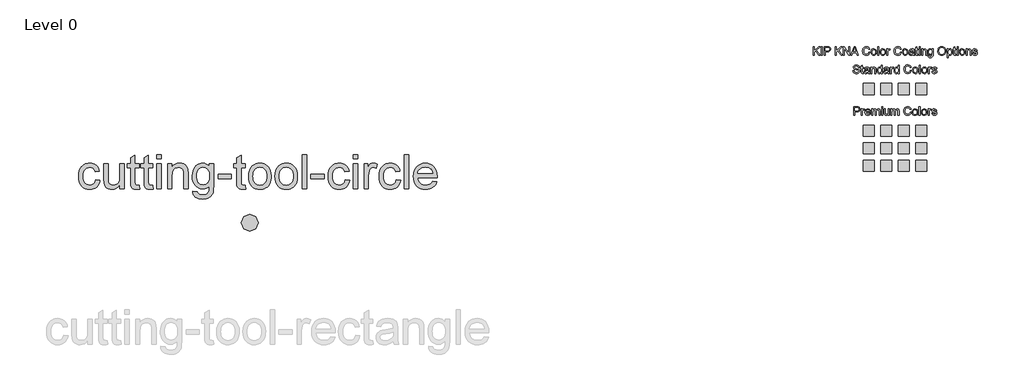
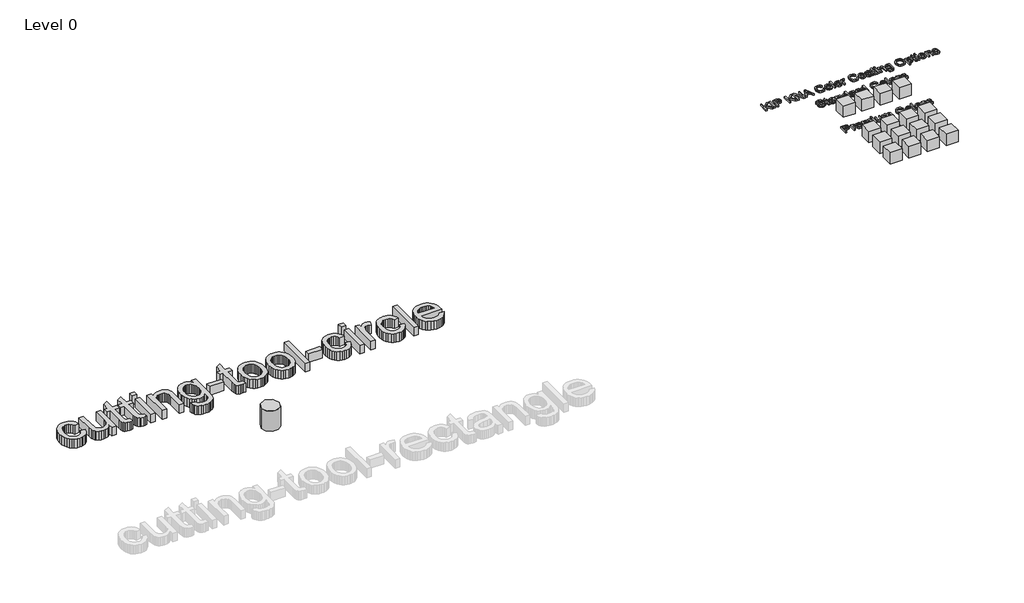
# One storey, part 2 of 2: 19 proxies.
"""IFC4 building model written with IfcOpenShell, lengths in millimetres."""

from ifc_helpers import new_model, si_unit, origin, origin_with_axes, place, context, project, spatial, polyline, outline, extrude, transform, mapped, element, save
from components import kna_colour_range_roof_only_kna_colour_range_roof_only_6b243e54, ks_colour_sample_ks_colour_sample_0243efec, kingspan_ks_cutting_tool_circle_cutting_tool_circle_f6fe257a

model = new_model("IFC4")

# Units and contexts
model_context = context("Model", 3, world=origin())
ifc_project = project(units=[si_unit("LENGTHUNIT", "METRE", prefix="MILLI")], contexts=[model_context])

# Site, building, storey
site = spatial("IfcSite", under=ifc_project)
building = spatial("IfcBuilding", under=site)
storey = spatial("IfcBuildingStorey", under=building, Name="Level 0", Elevation=0.0)

# Proxies
placement = place(None, origin())
element("IfcBuildingElementProxy", 1, Name="24\" Arial", ObjectType="24\" Arial", at=placement, inside=storey, context=model_context, shape_type="SweptSolid", body=[
    extrude(outline(polyline([(-953.9945924, 13908.1283284), (-877.8528189, 13898.6106067), (-886.1343521, 13862.6821368), (-899.0817997, 13830.8897861), (-916.6951616, 13803.2335548), (-938.9744378, 13779.7134428), (-964.9808688, 13760.9428969), (-993.7756948, 13747.5353642), (-1025.3589158, 13739.4908445), (-1059.7305318, 13736.809338), (-1102.4348016, 13740.5504346), (-1140.7241126, 13751.7737246), (-1174.5984649, 13770.4792079), (-1204.0578583, 13796.6668845), (-1227.9032831, 13829.844138), (-1244.9357294, 13869.5183519), (-1255.1551972, 13915.6895262), (-1258.5616864, 13968.3576609), (-1252.7432355, 14036.1156601), (-1245.4701718, 14066.6067597), (-1235.2878826, 14094.8392593), (-1222.1266581, 14120.2461853), (-1205.9167884, 14142.2605641), (-1186.6582734, 14160.8823955), (-1164.3511132, 14176.1116797), (-1140.0037773, 14187.9530639), (-1114.6247352, 14196.4111955), (-1088.213987, 14201.4860744), (-1060.7715326, 14203.1777008), (-1026.9901268, 14200.8540382), (-996.4339647, 14193.8830507), (-969.1030461, 14182.2647381), (-944.9973711, 14165.9991004), (-924.5259043, 14145.4579237), (-908.0976102, 14121.012994), (-895.712489, 14092.6643112), (-887.3705406, 14060.4118754), (-963.5123141, 14050.8941537), (-977.3241641, 14084.1132331), (-998.8319844, 14107.9261267), (-1026.8460598, 14122.2584771), (-1060.176675, 14127.0359272), (-1086.0483335, 14124.6843808), (-1109.3825525, 14117.6297413), (-1130.1793321, 14105.872009), (-1148.4386722, 14089.4111837), (-1163.305465, 14067.8661848), (-1173.9246028, 14040.8559316), (-1180.2960854, 14008.3804242), (-1182.4199129, 13970.4396626), (-1180.3425586, 13931.9272799), (-1174.1104958, 13899.0753392), (-1163.7237243, 13871.8838404), (-1149.1822442, 13850.3527834), (-1131.2853955, 13833.9895519), (-1110.832518, 13822.3015295), (-1087.8236117, 13815.288716), (-1062.2586766, 13812.9511115), (-1022.8307709, 13818.7881517), (-1005.7797353, 13826.0844521), (-990.5039779, 13836.2992725), (-977.4310526, 13849.5441489), (-966.9885132, 13865.930617), (-959.1763598, 13885.4586768), (-953.9945924, 13908.1283284)])), origin_with_axes(), (0.0, 0.0, 1.0), 152.4),
    extrude(outline(polyline([(-525.6971163, 13746.3270596), (-525.6971163, 13823.2124052), (-553.2464592, 13785.4110633), (-585.3315913, 13758.4101048), (-621.9525127, 13742.2095297), (-663.1092232, 13736.809338), (-700.1948771, 13740.6015552), (-734.7152075, 13751.9782069), (-763.6773372, 13769.0803631), (-784.0883888, 13790.0490937), (-797.8258816, 13815.5164349), (-806.767335, 13846.114423), (-811.228767, 13916.9024781), (-811.228767, 14193.6599791), (-735.0869935, 14193.6599791), (-735.0869935, 13952.7426488), (-733.9344569, 13904.5591827), (-730.4768471, 13875.1137313), (-719.3790349, 13849.2188361), (-700.3621808, 13829.5327672), (-674.6903573, 13817.0965254), (-643.6276367, 13812.9511115), (-610.7803432, 13817.1894719), (-580.0522301, 13829.9045532), (-554.7150139, 13849.9252295), (-538.0404117, 13876.0803749), (-528.7829402, 13911.9019563), (-525.6971163, 13960.9219409), (-525.6971163, 14193.6599791), (-449.5553428, 14193.6599791), (-449.5553428, 13746.3270596), (-525.6971163, 13746.3270596)])), origin_with_axes(), (0.0, 0.0, 1.0), 152.4),
    extrude(outline(polyline([(-183.0591355, 13809.828109), (-173.5414138, 13744.0963436), (-203.6932587, 13738.6310894), (-230.4990296, 13736.809338), (-267.0455937, 13739.969519), (-294.2975078, 13749.4500621), (-313.5560227, 13764.061252), (-326.1223897, 13782.6133736), (-333.0376093, 13814.4754341), (-335.3426826, 13869.0164408), (-335.3426826, 14117.5182055), (-392.4490127, 14117.5182055), (-392.4490127, 14193.6599791), (-335.3426826, 14193.6599791), (-335.3426826, 14302.3702065), (-259.200909, 14347.1332413), (-259.200909, 14193.6599791), (-183.0591355, 14193.6599791), (-183.0591355, 14117.5182055), (-259.200909, 14117.5182055), (-259.200909, 13871.2471568), (-255.1856202, 13831.9865549), (-242.1731101, 13818.0817583), (-231.1868337, 13814.2337732), (-216.222447, 13812.9511115), (-183.0591355, 13809.828109)])), origin_with_axes(), (0.0, 0.0, 1.0), 152.4),
    extrude(outline(polyline([(54.8839067, 13809.828109), (64.4016284, 13744.0963436), (34.2497835, 13738.6310894), (7.4440127, 13736.809338), (-29.1025515, 13739.969519), (-56.3544655, 13749.4500621), (-75.6129805, 13764.061252), (-88.1793474, 13782.6133736), (-95.0945671, 13814.4754341), (-97.3996403, 13869.0164408), (-97.3996403, 14117.5182055), (-154.5059705, 14117.5182055), (-154.5059705, 14193.6599791), (-97.3996403, 14193.6599791), (-97.3996403, 14302.3702065), (-21.2578668, 14347.1332413), (-21.2578668, 14193.6599791), (54.8839067, 14193.6599791), (54.8839067, 14117.5182055), (-21.2578668, 14117.5182055), (-21.2578668, 13871.2471568), (-17.242578, 13831.9865549), (-4.2300678, 13818.0817583), (6.7562086, 13814.2337732), (21.7205952, 13812.9511115), (54.8839067, 13809.828109)])), origin_with_axes(), (0.0, 0.0, 1.0), 152.4),
    extrude(outline(polyline([(131.0256802, 14279.3194743), (131.0256802, 14355.4612478), (207.1674538, 14355.4612478), (207.1674538, 14279.3194743), (131.0256802, 14279.3194743)])), origin_with_axes(), (0.0, 0.0, 1.0), 152.4),
    extrude(outline(polyline([(131.0256802, 13746.3270596), (131.0256802, 14193.6599791), (207.1674538, 14193.6599791), (207.1674538, 13746.3270596), (131.0256802, 13746.3270596)])), origin_with_axes(), (0.0, 0.0, 1.0), 152.4),
    extrude(outline(polyline([(321.380114, 13746.3270596), (321.380114, 14193.6599791), (397.5218875, 14193.6599791), (397.5218875, 14131.1999305), (423.9744617, 14162.690205), (455.7435757, 14185.1832582), (492.8292295, 14198.6790901), (535.2314232, 14203.1777008), (572.7632203, 14199.5527872), (607.1348363, 14188.6780466), (635.7995372, 14171.9104979), (656.2105888, 14150.6071599), (670.0596174, 14124.8238005), (679.0382494, 14094.6161877), (683.0535382, 14021.002559), (683.0535382, 13746.3270596), (606.9117647, 13746.3270596), (606.9117647, 14010.7412653), (604.7182273, 14050.1134031), (598.137615, 14078.1088892), (585.998802, 14098.1667441), (567.1306623, 14113.7259883), (542.9459828, 14123.7084425), (514.8575503, 14127.0359272), (491.7371082, 14125.1677026), (470.2618191, 14119.5630286), (450.4316832, 14110.2219052), (432.2467003, 14097.1443326), (417.0545947, 14078.8431665), (406.2030907, 14053.8312631), (399.6921883, 14022.1086224), (397.5218875, 13983.6752443), (397.5218875, 13746.3270596), (321.380114, 13746.3270596)])), origin_with_axes(), (0.0, 0.0, 1.0), 152.4),
    extrude(outline(polyline([(768.7130334, 13708.2561729), (844.854807, 13698.7384512), (853.2571706, 13674.944147), (869.5413976, 13658.5855628), (901.5521725, 13645.8704815), (943.4524551, 13641.6321211), (988.1411327, 13646.4281605), (1006.1913432, 13652.4232098), (1021.3788014, 13660.8162788), (1044.4295336, 13683.8670111), (1058.5574018, 13714.6508922), (1062.6842264, 13747.4052391), (1063.7624058, 13803.4333898), (1038.4251897, 13778.4493704), (1010.1508641, 13760.6036422), (978.9394291, 13749.8962053), (944.7908847, 13746.3270596), (903.0439638, 13750.4817682), (866.2882701, 13762.945894), (834.5238034, 13783.719437), (807.7505638, 13812.8023971), (786.507641, 13847.6945135), (771.3341248, 13885.8955254), (762.230015, 13927.4054327), (759.1953118, 13972.2242354), (764.6419767, 14033.6990511), (780.9819716, 14090.2291129), (793.0929006, 14115.7196908), (807.639028, 14138.1337394), (824.6203537, 14157.4712589), (844.0368778, 14173.7322493), (865.5772293, 14186.6146343), (888.9300377, 14195.8163379), (914.0953028, 14201.33736), (941.0730247, 14203.1777008), (976.6808292, 14199.0136975), (1008.9983275, 14186.5216878), (1038.0255197, 14165.7016716), (1063.7624058, 14136.5536489), (1063.7624058, 14193.6599791), (1139.9041793, 14193.6599791), (1139.9041793, 13807.4486786), (1134.6991753, 13718.2758057), (1128.1929202, 13685.1078468), (1119.0841631, 13659.5522064), (1107.1544798, 13638.9413199), (1092.1854458, 13620.6076226), (1074.1770612, 13604.5511145), (1053.1293261, 13590.7717958), (1029.2560174, 13579.7111622), (1002.7709119, 13571.8107096), (973.6740098, 13567.0704381), (941.9653111, 13565.4903475), (904.6612329, 13567.7164162), (871.1214881, 13574.3946223), (841.3460766, 13585.5249658), (815.3349983, 13601.1074467), (794.3244418, 13621.1606542), (779.5505954, 13645.7031778), (771.0134593, 13674.7350173), (768.7130334, 13708.2561729)]), holes=[polyline([(835.3370853, 13977.4292394), (837.3679663, 13939.7812592), (843.4606094, 13907.5892387), (853.6150147, 13880.8531777), (867.831182, 13859.5730763), (885.1145838, 13843.3399699), (904.4706926, 13831.744894), (925.8995084, 13824.7878484), (949.4010311, 13822.4688332), (972.6701876, 13824.7739064), (993.9967623, 13831.6891261), (1013.380755, 13843.2144922), (1030.8221659, 13859.3500047), (1045.2335209, 13880.4209765), (1055.5273458, 13906.7527202), (1061.7036408, 13938.3452358), (1063.7624058, 13975.1985234), (1061.6432256, 14010.5135464), (1055.2856849, 14041.2091283), (1044.6897838, 14067.2852691), (1029.8555223, 14088.7419689), (1012.0376781, 14105.4955757), (992.491029, 14117.4624376), (971.2155749, 14124.6425548), (948.2113159, 14127.0359272), (925.5927849, 14124.6797334), (904.7309428, 14117.611152), (885.6257896, 14105.8301831), (868.2773252, 14089.3368265), (853.8659702, 14068.2054395), (843.5721452, 14042.5103793), (837.3958503, 14012.251646), (835.3370853, 13977.4292394)])]), origin_with_axes(), (0.0, 0.0, 1.0), 152.4),
    extrude(outline(polyline([(1216.0459529, 13927.1637718), (1216.0459529, 14003.3055453), (1453.9889951, 14003.3055453), (1453.9889951, 13927.1637718), (1216.0459529, 13927.1637718)])), origin_with_axes(), (0.0, 0.0, 1.0), 152.4),
    extrude(outline(polyline([(1701.449759, 13809.828109), (1710.9674807, 13744.0963436), (1680.8156358, 13738.6310894), (1654.009865, 13736.809338), (1617.4633008, 13739.969519), (1590.2113868, 13749.4500621), (1570.9528718, 13764.061252), (1558.3865049, 13782.6133736), (1551.4712852, 13814.4754341), (1549.166212, 13869.0164408), (1549.166212, 14117.5182055), (1492.0598819, 14117.5182055), (1492.0598819, 14193.6599791), (1549.166212, 14193.6599791), (1549.166212, 14302.3702065), (1625.3079855, 14347.1332413), (1625.3079855, 14193.6599791), (1701.449759, 14193.6599791), (1701.449759, 14117.5182055), (1625.3079855, 14117.5182055), (1625.3079855, 13871.2471568), (1629.3232743, 13831.9865549), (1642.3357845, 13818.0817583), (1653.3220609, 13814.2337732), (1668.2864475, 13812.9511115), (1701.449759, 13809.828109)])), origin_with_axes(), (0.0, 0.0, 1.0), 152.4),
    extrude(outline(polyline([(1758.5560892, 13969.9935194), (1762.6736192, 14027.9270734), (1775.0262091, 14077.848639), (1795.6138591, 14119.7582162), (1824.436569, 14153.6558051), (1853.4544666, 14175.3216344), (1885.4838308, 14190.7972268), (1920.5246616, 14200.0825823), (1958.576959, 14203.1777008), (2000.5841301, 14199.4087201), (2038.5667177, 14188.1017783), (2072.5247218, 14169.2568753), (2102.4581424, 14142.874011), (2126.8891302, 14109.8454719), (2144.3398357, 14071.0635444), (2154.810259, 14026.5282285), (2158.3004001, 13976.2395242), (2156.7574882, 13935.4824836), (2152.1287525, 13899.3170001), (2144.4141929, 13867.7430737), (2133.6138095, 13840.7607045), (2119.8623747, 13817.4543694), (2103.2946609, 13796.9085454), (2083.9106682, 13779.1232325), (2061.7103964, 13764.0984306), (2037.5582482, 13752.1594526), (2012.3186259, 13743.6316111), (1985.9915295, 13738.5149063), (1958.576959, 13736.809338), (1915.9563411, 13740.5643766), (1877.6205568, 13751.8294925), (1843.5696062, 13770.6046857), (1813.8034893, 13796.8899561), (1789.6327517, 13830.2391606), (1772.3679392, 13870.206156), (1762.0090517, 13916.7909423), (1758.5560892, 13969.9935194)]), holes=[polyline([(1834.6978627, 13970.1422338), (1836.9006948, 13933.2099416), (1843.509191, 13901.231698), (1854.5233513, 13874.2075029), (1869.9431758, 13852.1373562), (1888.6997797, 13834.9933742), (1909.7242782, 13822.7476727), (1933.0166713, 13815.4002518), (1958.576959, 13812.9511115), (1984.0071217, 13815.4141937), (2007.2065683, 13822.8034406), (2028.1752989, 13835.1188519), (2046.9133135, 13852.3604278), (2062.333138, 13874.6489988), (2073.3472983, 13902.1053951), (2079.9557945, 13934.7296169), (2082.1586266, 13972.5216642), (2079.9418526, 14008.2828304), (2073.2915304, 14039.4245555), (2062.2076602, 14065.9468395), (2046.6902419, 14087.8496825), (2027.8825174, 14104.9936646), (2006.9277288, 14117.239366), (1983.825876, 14124.5867869), (1958.576959, 14127.0359272), (1933.0166713, 14124.5960816), (1909.7242782, 14117.2765446), (1888.6997797, 14105.0773164), (1869.9431758, 14087.9983969), (1854.5233513, 14065.9933128), (1843.509191, 14039.0155909), (1836.9006948, 14007.0652312), (1834.6978627, 13970.1422338)])]), origin_with_axes(), (0.0, 0.0, 1.0), 152.4),
    extrude(outline(polyline([(2224.924452, 13969.9935194), (2229.0419819, 14027.9270734), (2241.3945719, 14077.848639), (2261.9822219, 14119.7582162), (2290.8049318, 14153.6558051), (2319.8228294, 14175.3216344), (2351.8521936, 14190.7972268), (2386.8930244, 14200.0825823), (2424.9453218, 14203.1777008), (2466.9524929, 14199.4087201), (2504.9350805, 14188.1017783), (2538.8930846, 14169.2568753), (2568.8265052, 14142.874011), (2593.257493, 14109.8454719), (2610.7081985, 14071.0635444), (2621.1786218, 14026.5282285), (2624.6687629, 13976.2395242), (2623.125851, 13935.4824836), (2618.4971153, 13899.3170001), (2610.7825557, 13867.7430737), (2599.9821723, 13840.7607045), (2586.2307375, 13817.4543694), (2569.6630237, 13796.9085454), (2550.2790309, 13779.1232325), (2528.0787592, 13764.0984306), (2503.926611, 13752.1594526), (2478.6869886, 13743.6316111), (2452.3598923, 13738.5149063), (2424.9453218, 13736.809338), (2382.3247039, 13740.5643766), (2343.9889196, 13751.8294925), (2309.937969, 13770.6046857), (2280.1718521, 13796.8899561), (2256.0011145, 13830.2391606), (2238.736302, 13870.206156), (2228.3774145, 13916.7909423), (2224.924452, 13969.9935194)]), holes=[polyline([(2301.0662255, 13970.1422338), (2303.2690575, 13933.2099416), (2309.8775538, 13901.231698), (2320.8917141, 13874.2075029), (2336.3115386, 13852.1373562), (2355.0681425, 13834.9933742), (2376.092641, 13822.7476727), (2399.3850341, 13815.4002518), (2424.9453218, 13812.9511115), (2450.3754845, 13815.4141937), (2473.5749311, 13822.8034406), (2494.5436617, 13835.1188519), (2513.2816763, 13852.3604278), (2528.7015008, 13874.6489988), (2539.7156611, 13902.1053951), (2546.3241573, 13934.7296169), (2548.5269894, 13972.5216642), (2546.3102154, 14008.2828304), (2539.6598932, 14039.4245555), (2528.576023, 14065.9468395), (2513.0586047, 14087.8496825), (2494.2508802, 14104.9936646), (2473.2960916, 14117.239366), (2450.1942388, 14124.5867869), (2424.9453218, 14127.0359272), (2399.3850341, 14124.5960816), (2376.092641, 14117.2765446), (2355.0681425, 14105.0773164), (2336.3115386, 14087.9983969), (2320.8917141, 14065.9933128), (2309.8775538, 14039.0155909), (2303.2690575, 14007.0652312), (2301.0662255, 13970.1422338)])]), origin_with_axes(), (0.0, 0.0, 1.0), 152.4),
    extrude(outline(polyline([(2710.3282581, 13746.3270596), (2710.3282581, 14355.4612478), (2786.4700316, 14355.4612478), (2786.4700316, 13746.3270596), (2710.3282581, 13746.3270596)])), origin_with_axes(), (0.0, 0.0, 1.0), 152.4),
    extrude(outline(polyline([(2862.6118052, 13927.1637718), (2862.6118052, 14003.3055453), (3100.5548474, 14003.3055453), (3100.5548474, 13927.1637718), (2862.6118052, 13927.1637718)])), origin_with_axes(), (0.0, 0.0, 1.0), 152.4),
    extrude(outline(polyline([(3471.7459933, 13908.1283284), (3547.8877668, 13898.6106067), (3539.6062336, 13862.6821368), (3526.658786, 13830.8897861), (3509.0454241, 13803.2335548), (3486.7661478, 13779.7134428), (3460.7597169, 13760.9428969), (3431.9648909, 13747.5353642), (3400.3816699, 13739.4908445), (3366.0100539, 13736.809338), (3323.3057841, 13740.5504346), (3285.016473, 13751.7737246), (3251.1421208, 13770.4792079), (3221.6827273, 13796.6668845), (3197.8373025, 13829.844138), (3180.8048563, 13869.5183519), (3170.5853885, 13915.6895262), (3167.1788992, 13968.3576609), (3172.9973502, 14036.1156601), (3180.2704139, 14066.6067597), (3190.452703, 14094.8392593), (3203.6139276, 14120.2461853), (3219.8237973, 14142.2605641), (3239.0823123, 14160.8823955), (3261.3894725, 14176.1116797), (3285.7368084, 14187.9530639), (3311.1158505, 14196.4111955), (3337.5265987, 14201.4860744), (3364.9690531, 14203.1777008), (3398.7504588, 14200.8540382), (3429.306621, 14193.8830507), (3456.6375396, 14182.2647381), (3480.7432146, 14165.9991004), (3501.2146814, 14145.4579237), (3517.6429754, 14121.012994), (3530.0280967, 14092.6643112), (3538.3700451, 14060.4118754), (3462.2282716, 14050.8941537), (3448.4164216, 14084.1132331), (3426.9086013, 14107.9261267), (3398.8945259, 14122.2584771), (3365.5639107, 14127.0359272), (3339.6922522, 14124.6843808), (3316.3580331, 14117.6297413), (3295.5612536, 14105.872009), (3277.3019135, 14089.4111837), (3262.4351207, 14067.8661848), (3251.8159829, 14040.8559316), (3245.4445003, 14008.3804242), (3243.3206727, 13970.4396626), (3245.398027, 13931.9272799), (3251.6300899, 13899.0753392), (3262.0168614, 13871.8838404), (3276.5583415, 13850.3527834), (3294.4551902, 13833.9895519), (3314.9080677, 13822.3015295), (3337.916974, 13815.288716), (3363.4819091, 13812.9511115), (3402.9098148, 13818.7881517), (3419.9608503, 13826.0844521), (3435.2366078, 13836.2992725), (3448.3095331, 13849.5441489), (3458.7520725, 13865.930617), (3466.5642259, 13885.4586768), (3471.7459933, 13908.1283284)])), origin_with_axes(), (0.0, 0.0, 1.0), 152.4),
    extrude(outline(polyline([(3614.5118186, 14279.3194743), (3614.5118186, 14355.4612478), (3690.6535922, 14355.4612478), (3690.6535922, 14279.3194743), (3614.5118186, 14279.3194743)])), origin_with_axes(), (0.0, 0.0, 1.0), 152.4),
    extrude(outline(polyline([(3614.5118186, 13746.3270596), (3614.5118186, 14193.6599791), (3690.6535922, 14193.6599791), (3690.6535922, 13746.3270596), (3614.5118186, 13746.3270596)])), origin_with_axes(), (0.0, 0.0, 1.0), 152.4),
    extrude(outline(polyline([(3804.8662524, 13746.3270596), (3804.8662524, 14193.6599791), (3871.4903043, 14193.6599791), (3871.4903043, 14127.4820704), (3896.1025377, 14165.850386), (3918.7814839, 14188.454975), (3941.5347873, 14199.4970193), (3966.3700924, 14203.1777008), (4004.2922647, 14197.3034819), (4042.8092947, 14179.6808253), (4017.379132, 14111.4209151), (3990.6105398, 14123.1321742), (3963.8419475, 14127.0359272), (3941.1072334, 14123.2808886), (3920.7891283, 14112.0157727), (3904.3747763, 14094.0956873), (3893.3513213, 14070.3757403), (3884.0938498, 14027.8434215), (3881.008026, 13981.4445283), (3881.008026, 13746.3270596), (3804.8662524, 13746.3270596)])), origin_with_axes(), (0.0, 0.0, 1.0), 152.4),
    extrude(outline(polyline([(4375.9295538, 13908.1283284), (4452.0713273, 13898.6106067), (4443.7897941, 13862.6821368), (4430.8423465, 13830.8897861), (4413.2289846, 13803.2335548), (4390.9497084, 13779.7134428), (4364.9432774, 13760.9428969), (4336.1484514, 13747.5353642), (4304.5652304, 13739.4908445), (4270.1936144, 13736.809338), (4227.4893446, 13740.5504346), (4189.2000336, 13751.7737246), (4155.3256813, 13770.4792079), (4125.8662879, 13796.6668845), (4102.0208631, 13829.844138), (4084.9884168, 13869.5183519), (4074.768949, 13915.6895262), (4071.3624597, 13968.3576609), (4077.1809107, 14036.1156601), (4084.4539744, 14066.6067597), (4094.6362636, 14094.8392593), (4107.7974881, 14120.2461853), (4124.0073578, 14142.2605641), (4143.2658728, 14160.8823955), (4165.573033, 14176.1116797), (4189.9203689, 14187.9530639), (4215.299411, 14196.4111955), (4241.7101592, 14201.4860744), (4269.1526136, 14203.1777008), (4302.9340194, 14200.8540382), (4333.4901815, 14193.8830507), (4360.8211001, 14182.2647381), (4384.9267751, 14165.9991004), (4405.3982419, 14145.4579237), (4421.8265359, 14121.012994), (4434.2116572, 14092.6643112), (4442.5536056, 14060.4118754), (4366.4118321, 14050.8941537), (4352.5999821, 14084.1132331), (4331.0921618, 14107.9261267), (4303.0780864, 14122.2584771), (4269.7474712, 14127.0359272), (4243.8758127, 14124.6843808), (4220.5415937, 14117.6297413), (4199.7448141, 14105.872009), (4181.485474, 14089.4111837), (4166.6186812, 14067.8661848), (4155.9995434, 14040.8559316), (4149.6280608, 14008.3804242), (4147.5042333, 13970.4396626), (4149.5815876, 13931.9272799), (4155.8136504, 13899.0753392), (4166.2004219, 13871.8838404), (4180.741902, 13850.3527834), (4198.6387507, 13833.9895519), (4219.0916282, 13822.3015295), (4242.1005345, 13815.288716), (4267.6654696, 13812.9511115), (4307.0933753, 13818.7881517), (4324.1444109, 13826.0844521), (4339.4201683, 13836.2992725), (4352.4930936, 13849.5441489), (4362.935633, 13865.930617), (4370.7477864, 13885.4586768), (4375.9295538, 13908.1283284)])), origin_with_axes(), (0.0, 0.0, 1.0), 152.4),
    extrude(outline(polyline([(4518.6953792, 13746.3270596), (4518.6953792, 14355.4612478), (4594.8371527, 14355.4612478), (4594.8371527, 13746.3270596), (4518.6953792, 13746.3270596)])), origin_with_axes(), (0.0, 0.0, 1.0), 152.4),
    extrude(outline(polyline([(5022.2423423, 13879.5751633), (5096.8969718, 13870.0574416), (5085.4506102, 13840.1565523), (5069.9982545, 13813.8062193), (5050.5399045, 13791.0064426), (5027.0755603, 13771.7572223), (4999.8468829, 13756.4675229), (4969.0955331, 13745.546309), (4934.8215109, 13738.9935807), (4897.0248163, 13736.809338), (4849.7801099, 13740.5783186), (4807.6846397, 13751.8852604), (4770.7384056, 13770.7301635), (4738.9414076, 13797.1130277), (4713.3718252, 13830.2995759), (4695.1078378, 13869.5555305), (4684.1494454, 13914.8808917), (4680.4966479, 13966.2756593), (4684.186624, 14019.4131739), (4695.2565522, 14066.2489157), (4713.7064326, 14106.7828847), (4739.5362652, 14141.015081), (4771.2496113, 14168.2112271), (4807.3500323, 14187.6370458), (4847.8375281, 14199.292537), (4892.7120987, 14203.1777008), (4936.1413512, 14199.3018317), (4975.4158952, 14187.6742244), (5010.5357305, 14168.294879), (5041.5008573, 14141.1637954), (5066.7776582, 14107.0059563), (5084.832516, 14066.5463445), (5095.6654307, 14019.7849599), (5099.2764022, 13966.7218025), (5098.830259, 13946.1992151), (4756.6384214, 13946.1992151), (4761.0487329, 13915.815004), (4769.8182352, 13889.2044208), (4782.9469285, 13866.3674655), (4800.4348126, 13847.3041382), (4821.315244, 13832.274689), (4844.6215791, 13821.5393682), (4870.3538179, 13815.0981756), (4898.5119603, 13812.9511115), (4939.0366347, 13816.9292217), (4973.1665898, 13828.8635524), (5000.9018257, 13849.4976756), (5022.2423423, 13879.5751633)]), holes=[polyline([(4756.6384214, 14022.3409886), (5023.1346287, 14022.3409886), (5012.8361564, 14062.5682342), (5003.9783549, 14078.3877287), (4992.6481764, 14091.3444709), (4971.8839281, 14106.959483), (4948.2569276, 14118.1130632), (4921.7671749, 14124.8052112), (4892.4146699, 14127.0359272), (4865.6414303, 14125.2560017), (4841.0896121, 14119.9162253), (4818.7592153, 14111.0165978), (4798.6502398, 14098.5571194), (4781.7758026, 14083.1140582), (4769.1490204, 14065.2636828), (4760.7698934, 14045.0059929), (4756.6384214, 14022.3409886)])]), origin_with_axes(), (0.0, 0.0, 1.0), 152.4),
])
kna_colour_range_roof_only_kna_colour_range_roof_only_shape = kna_colour_range_roof_only_kna_colour_range_roof_only_6b243e54(model_context)
element("IfcBuildingElementProxy", 2, Name="KNA_Colour Range - Roof Only : KNA_Colour Range - Roof Only", ObjectType="KNA_Colour Range - Roof Only : KNA_Colour Range - Roof Only", at=placement, inside=storey, context=model_context, shape_type="MappedRepresentation", body=[
    mapped(kna_colour_range_roof_only_kna_colour_range_roof_only_shape, transform((13221.5853815, 13539.2290821, 0.0), x_axis=(1.0, 0.0, 0.0), y_axis=(0.0, 1.0, 0.0), z_axis=(0.0, 0.0, 1.0))),
])
ks_colour_sample_ks_colour_sample_shape = ks_colour_sample_ks_colour_sample_0243efec(model_context)
element("IfcBuildingElementProxy", 3, Name="KS_Colour Sample : KS_Colour Sample", ObjectType="KS_Colour Sample : KS_Colour Sample", at=placement, inside=storey, context=model_context, shape_type="MappedRepresentation", body=[
    mapped(ks_colour_sample_ks_colour_sample_shape, transform((12756.5853815, 15517.7096271, 0.0), x_axis=(1.0, 0.0, 0.0), y_axis=(0.0, 1.0, 0.0), z_axis=(0.0, 0.0, 1.0))),
])
element("IfcBuildingElementProxy", 4, Name="KS_Colour Sample : KS_Colour Sample", ObjectType="KS_Colour Sample : KS_Colour Sample", at=placement, inside=storey, context=model_context, shape_type="MappedRepresentation", body=[
    mapped(ks_colour_sample_ks_colour_sample_shape, transform((13066.5853815, 15517.7096271, 0.0), x_axis=(1.0, 0.0, 0.0), y_axis=(0.0, 1.0, 0.0), z_axis=(0.0, 0.0, 1.0))),
])
element("IfcBuildingElementProxy", 5, Name="KS_Colour Sample : KS_Colour Sample", ObjectType="KS_Colour Sample : KS_Colour Sample", at=placement, inside=storey, context=model_context, shape_type="MappedRepresentation", body=[
    mapped(ks_colour_sample_ks_colour_sample_shape, transform((13376.5853815, 15517.7096271, 0.0), x_axis=(1.0, 0.0, 0.0), y_axis=(0.0, 1.0, 0.0), z_axis=(0.0, 0.0, 1.0))),
])
element("IfcBuildingElementProxy", 6, Name="KS_Colour Sample : KS_Colour Sample", ObjectType="KS_Colour Sample : KS_Colour Sample", at=placement, inside=storey, context=model_context, shape_type="MappedRepresentation", body=[
    mapped(ks_colour_sample_ks_colour_sample_shape, transform((13686.5853815, 15517.7096271, 0.0), x_axis=(1.0, 0.0, 0.0), y_axis=(0.0, 1.0, 0.0), z_axis=(0.0, 0.0, 1.0))),
])
element("IfcBuildingElementProxy", 7, Name="KS_Colour Sample : KS_Colour Sample", ObjectType="KS_Colour Sample : KS_Colour Sample", at=placement, inside=storey, context=model_context, shape_type="MappedRepresentation", body=[
    mapped(ks_colour_sample_ks_colour_sample_shape, transform((12756.5853815, 14777.7096271, 0.0), x_axis=(1.0, 0.0, 0.0), y_axis=(0.0, 1.0, 0.0), z_axis=(0.0, 0.0, 1.0))),
])
element("IfcBuildingElementProxy", 8, Name="KS_Colour Sample : KS_Colour Sample", ObjectType="KS_Colour Sample : KS_Colour Sample", at=placement, inside=storey, context=model_context, shape_type="MappedRepresentation", body=[
    mapped(ks_colour_sample_ks_colour_sample_shape, transform((13066.5853815, 14777.7096271, 0.0), x_axis=(1.0, 0.0, 0.0), y_axis=(0.0, 1.0, 0.0), z_axis=(0.0, 0.0, 1.0))),
])
element("IfcBuildingElementProxy", 9, Name="KS_Colour Sample : KS_Colour Sample", ObjectType="KS_Colour Sample : KS_Colour Sample", at=placement, inside=storey, context=model_context, shape_type="MappedRepresentation", body=[
    mapped(ks_colour_sample_ks_colour_sample_shape, transform((13376.5853815, 14777.7096271, 0.0), x_axis=(1.0, 0.0, 0.0), y_axis=(0.0, 1.0, 0.0), z_axis=(0.0, 0.0, 1.0))),
])
element("IfcBuildingElementProxy", 10, Name="KS_Colour Sample : KS_Colour Sample", ObjectType="KS_Colour Sample : KS_Colour Sample", at=placement, inside=storey, context=model_context, shape_type="MappedRepresentation", body=[
    mapped(ks_colour_sample_ks_colour_sample_shape, transform((13686.5853815, 14777.7096271, 0.0), x_axis=(1.0, 0.0, 0.0), y_axis=(0.0, 1.0, 0.0), z_axis=(0.0, 0.0, 1.0))),
])
element("IfcBuildingElementProxy", 11, Name="KS_Colour Sample : KS_Colour Sample", ObjectType="KS_Colour Sample : KS_Colour Sample", at=placement, inside=storey, context=model_context, shape_type="MappedRepresentation", body=[
    mapped(ks_colour_sample_ks_colour_sample_shape, transform((12756.5853815, 14467.7096271, 0.0), x_axis=(1.0, 0.0, 0.0), y_axis=(0.0, 1.0, 0.0), z_axis=(0.0, 0.0, 1.0))),
])
element("IfcBuildingElementProxy", 12, Name="KS_Colour Sample : KS_Colour Sample", ObjectType="KS_Colour Sample : KS_Colour Sample", at=placement, inside=storey, context=model_context, shape_type="MappedRepresentation", body=[
    mapped(ks_colour_sample_ks_colour_sample_shape, transform((13066.5853815, 14467.7096271, 0.0), x_axis=(1.0, 0.0, 0.0), y_axis=(0.0, 1.0, 0.0), z_axis=(0.0, 0.0, 1.0))),
])
element("IfcBuildingElementProxy", 13, Name="KS_Colour Sample : KS_Colour Sample", ObjectType="KS_Colour Sample : KS_Colour Sample", at=placement, inside=storey, context=model_context, shape_type="MappedRepresentation", body=[
    mapped(ks_colour_sample_ks_colour_sample_shape, transform((13376.5853815, 14467.7096271, 0.0), x_axis=(1.0, 0.0, 0.0), y_axis=(0.0, 1.0, 0.0), z_axis=(0.0, 0.0, 1.0))),
])
element("IfcBuildingElementProxy", 14, Name="KS_Colour Sample : KS_Colour Sample", ObjectType="KS_Colour Sample : KS_Colour Sample", at=placement, inside=storey, context=model_context, shape_type="MappedRepresentation", body=[
    mapped(ks_colour_sample_ks_colour_sample_shape, transform((13686.5853815, 14467.7096271, 0.0), x_axis=(1.0, 0.0, 0.0), y_axis=(0.0, 1.0, 0.0), z_axis=(0.0, 0.0, 1.0))),
])
element("IfcBuildingElementProxy", 15, Name="KS_Colour Sample : KS_Colour Sample", ObjectType="KS_Colour Sample : KS_Colour Sample", at=placement, inside=storey, context=model_context, shape_type="MappedRepresentation", body=[
    mapped(ks_colour_sample_ks_colour_sample_shape, transform((12756.5853815, 14157.7096271, 0.0), x_axis=(1.0, 0.0, 0.0), y_axis=(0.0, 1.0, 0.0), z_axis=(0.0, 0.0, 1.0))),
])
element("IfcBuildingElementProxy", 16, Name="KS_Colour Sample : KS_Colour Sample", ObjectType="KS_Colour Sample : KS_Colour Sample", at=placement, inside=storey, context=model_context, shape_type="MappedRepresentation", body=[
    mapped(ks_colour_sample_ks_colour_sample_shape, transform((13066.5853815, 14157.7096271, 0.0), x_axis=(1.0, 0.0, 0.0), y_axis=(0.0, 1.0, 0.0), z_axis=(0.0, 0.0, 1.0))),
])
element("IfcBuildingElementProxy", 17, Name="KS_Colour Sample : KS_Colour Sample", ObjectType="KS_Colour Sample : KS_Colour Sample", at=placement, inside=storey, context=model_context, shape_type="MappedRepresentation", body=[
    mapped(ks_colour_sample_ks_colour_sample_shape, transform((13376.5853815, 14157.7096271, 0.0), x_axis=(1.0, 0.0, 0.0), y_axis=(0.0, 1.0, 0.0), z_axis=(0.0, 0.0, 1.0))),
])
element("IfcBuildingElementProxy", 18, Name="KS_Colour Sample : KS_Colour Sample", ObjectType="KS_Colour Sample : KS_Colour Sample", at=placement, inside=storey, context=model_context, shape_type="MappedRepresentation", body=[
    mapped(ks_colour_sample_ks_colour_sample_shape, transform((13686.5853815, 14157.7096271, 0.0), x_axis=(1.0, 0.0, 0.0), y_axis=(0.0, 1.0, 0.0), z_axis=(0.0, 0.0, 1.0))),
])
kingspan_ks_cutting_tool_circle_cutting_tool_circle_shape = kingspan_ks_cutting_tool_circle_cutting_tool_circle_f6fe257a(model_context)
element("IfcBuildingElementProxy", 19, Name="kingspan-ks-cutting-tool-circle : cutting-tool-circle", ObjectType="kingspan-ks-cutting-tool-circle : cutting-tool-circle", at=placement, inside=storey, context=model_context, shape_type="MappedRepresentation", body=[
    mapped(kingspan_ks_cutting_tool_circle_cutting_tool_circle_shape, transform((1776.7934259, 13145.7618646, 0.0), x_axis=(1.0, 0.0, 0.0), y_axis=(0.0, 1.0, 0.0), z_axis=(0.0, 0.0, 1.0))),
])

save(model, "model.ifc")
